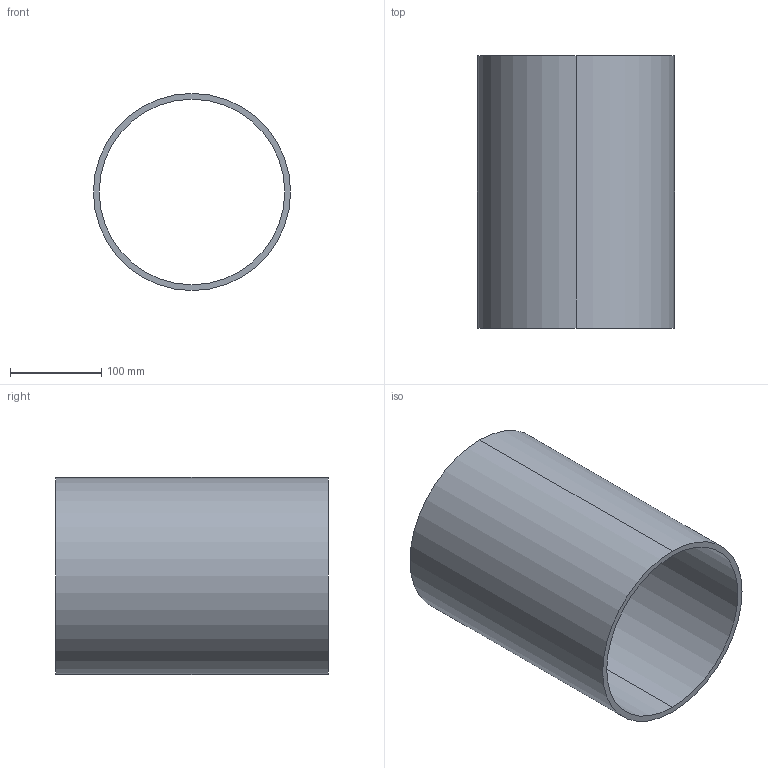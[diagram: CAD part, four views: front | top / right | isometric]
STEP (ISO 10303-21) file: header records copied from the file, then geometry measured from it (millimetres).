
FILE_DESCRIPTION (( 'STEP AP203' ), '1' );
FILE_NAME ('WTE8-P-TUBE-R1.STEP', '2017-01-12T19:24:53', ( '' ), ( '' ), 'SwSTEP 2.0', 'SolidWorks 2014', '' );
FILE_SCHEMA (( 'CONFIG_CONTROL_DESIGN' ));
Length unit declared in the file: inch
Products named in the file (1): WTE8-P-TUBE-R1
Bounding box: 215.9 x 298.45 x 215.9 mm (x, y, z)
Volume: 1247621.5 mm3; surface area: 401312.3 mm2
Topology: 1 solids, 1 shells, 6 faces, 12 edges, 8 vertices
Faces by surface type: cylinder 4, plane 2
Entity records: 247 total; most frequent: DIRECTION 34, CARTESIAN_POINT 27, ORIENTED_EDGE 24, AXIS2_PLACEMENT_3D 15, EDGE_CURVE 12, EDGE_LOOP 8, PERSON_AND_ORGANIZATION 8, VERTEX_POINT 8
